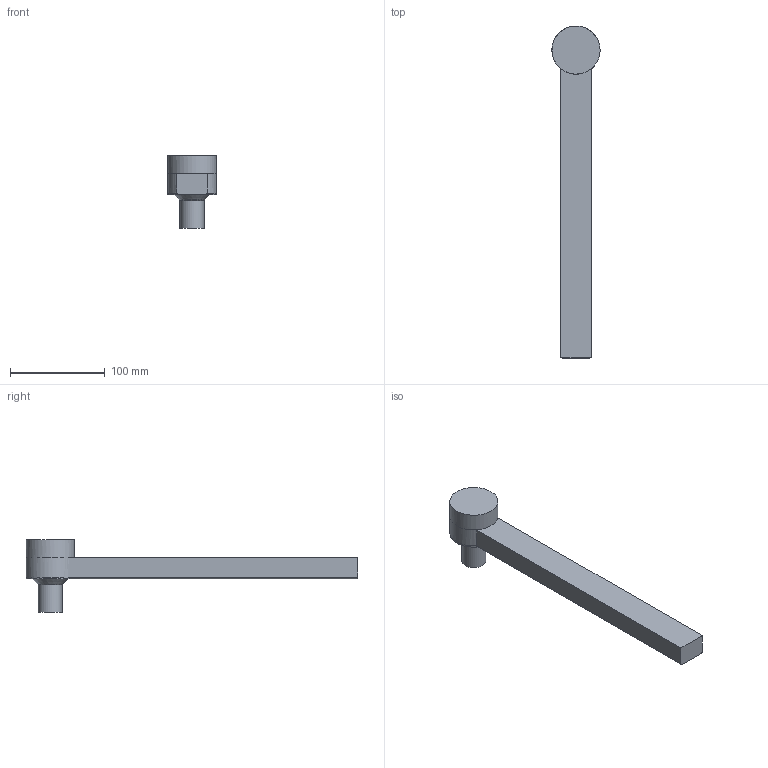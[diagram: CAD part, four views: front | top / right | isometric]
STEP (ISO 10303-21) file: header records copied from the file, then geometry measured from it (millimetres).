
FILE_DESCRIPTION(/* description */ (''),/* implementation_level */ '2;1');
FILE_NAME(/* name */ 'B0193TRUPas.stp',/* time_stamp */ '2019-10-02T08:06:10-04:00',/* author */ (''),/* organization */ (''),/* preprocessor_version */ 'ST-DEVELOPER v16',/* originating_system */ 'SIEMENS PLM Software NX 11.0',/* authorisation */ '');
FILE_SCHEMA (('AUTOMOTIVE_DESIGN { 1 0 10303 214 3 1 1 1 }'));
Length unit declared in the file: inch
Products named in the file (3): B01XX_SubSolid; B0193TRUPd; B0193TRUPas
Assembly tree (2 placements, depth 2):
  B0193TRUPas
    B0193TRUPd
    B01XX_SubSolid
Bounding box: 50.91 x 350.87 x 76.99 mm (x, y, z)
Volume: 372176.8 mm3; surface area: 57796.1 mm2
Topology: 2 solids, 3 shells, 32 faces, 68 edges, 43 vertices
Faces by surface type: plane 13, cylinder 9, cone 5, torus 3, sphere 1, revolution 1
Full cylindrical faces by diameter (mm): 8.731 x2, 25.4 x2, 50.927 x1
Entity records: 834 total; most frequent: CARTESIAN_POINT 161, DIRECTION 134, ORIENTED_EDGE 92, AXIS2_PLACEMENT_3D 58, EDGE_LOOP 50, EDGE_CURVE 46, FACE_BOUND 41, VERTEX_POINT 38
